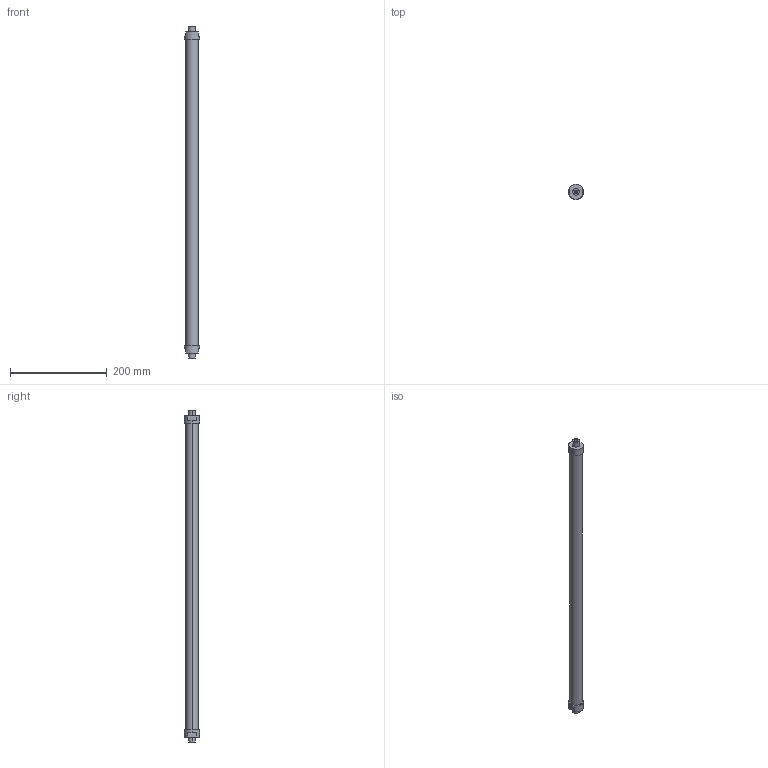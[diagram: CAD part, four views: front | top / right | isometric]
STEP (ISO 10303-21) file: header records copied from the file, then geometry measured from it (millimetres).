
FILE_DESCRIPTION(('STEP AP214'),'1');
FILE_NAME('ETT-R050G674.stp','2015-02-02T13:04:58',(' '),(' '),'Spatial InterOp 3D',' ',' ');
FILE_SCHEMA(('automotive_design'));
Length unit declared in the file: metre
Products named in the file (3): 1; 2; 3
Bounding box: 31 x 31 x 686 mm (x, y, z)
Volume: 316702.5 mm3; surface area: 69069.1 mm2
Topology: 1 solids, 7 shells, 32 faces, 86 edges, 66 vertices
Faces by surface type: cylinder 16, plane 16
Entity records: 1375 total; most frequent: DIRECTION 206, CARTESIAN_POINT 187, ORIENTED_EDGE 148, EDGE_CURVE 86, AXIS2_PLACEMENT_3D 85, VERTEX_POINT 66, CIRCLE 50, EDGE_LOOP 40
